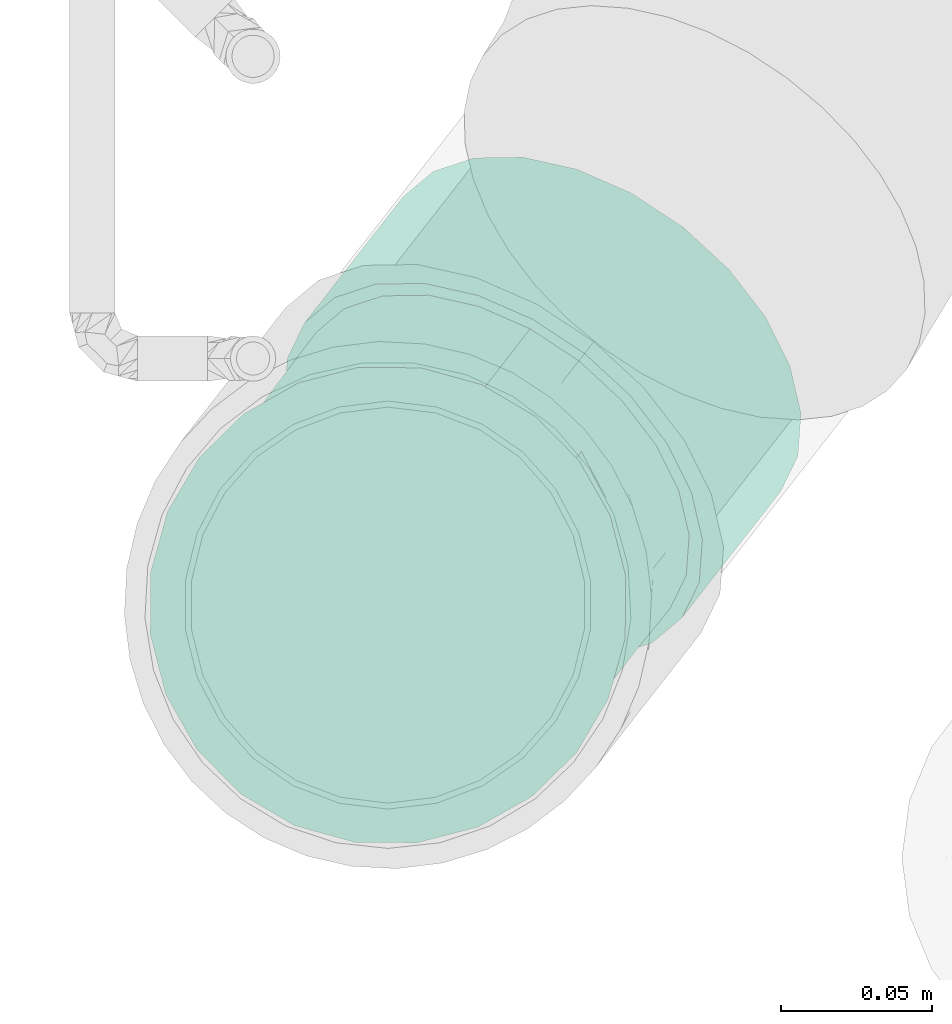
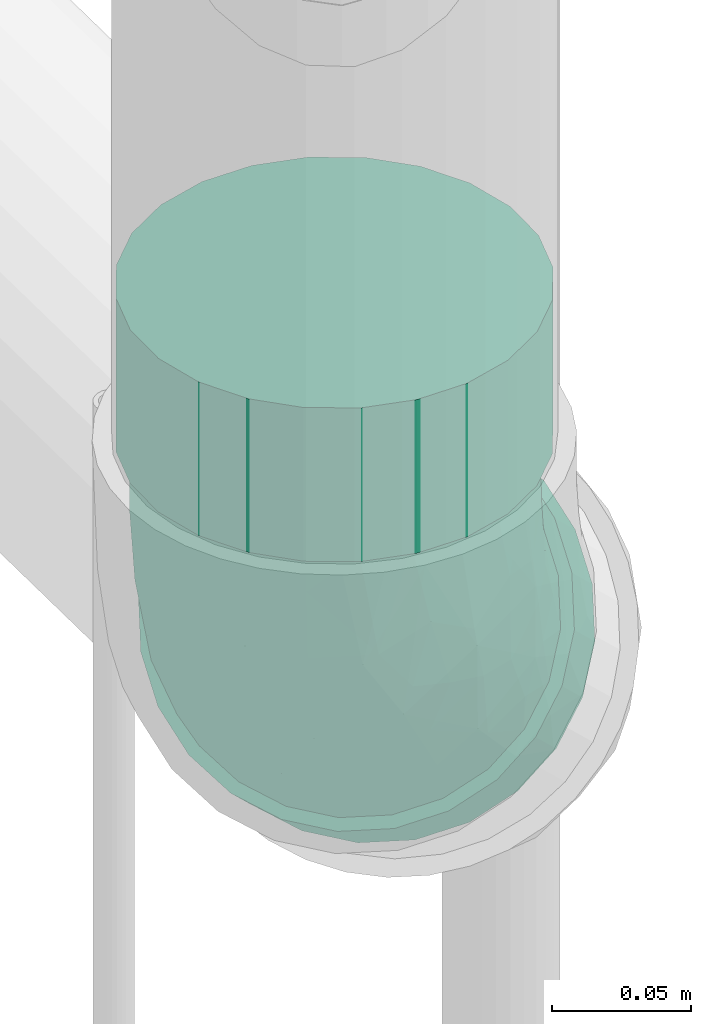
# One storey, part 134 of 156: 1 flow fitting.
"""IFC2X3 building model written with IfcOpenShell, lengths in millimetres."""

from ifc_helpers import new_model, entity, si_unit, converted_unit, derived_unit, direction, frame, origin_with_axes, place, context, subcontext, project, spatial, open_shell, surface_model, source, transform, mapped, type_object, element, save


model = new_model("IFC2X3")

# Units and contexts
model_context = context("Model", 3, precision=0.01, world=frame((0.0, 4.29681676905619e-09, 0.0)), true_north=direction((4.01073788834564e-13, 1.0)))
plan_context = context("Plan", 3, precision=0.01, world=frame((0.0, 4.29681676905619e-09, 0.0)), true_north=direction((4.01073788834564e-13, 1.0)))
body_context = subcontext(model_context, "Body", "Model", "MODEL_VIEW")
ifc_project = project(units=[converted_unit("PLANEANGLEUNIT", "DEGREE", entity("IfcPositiveLengthMeasure", 0.0174532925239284), si_unit("PLANEANGLEUNIT", "RADIAN"), dimensions=[0, 0, 0, 0, 0, 0, 0]), si_unit("AREAUNIT", "SQUARE_METRE"), si_unit("LENGTHUNIT", "METRE", prefix="MILLI"), si_unit("MASSUNIT", "GRAM", prefix="KILO"), si_unit("POWERUNIT", "WATT"), si_unit("PRESSUREUNIT", "PASCAL", prefix="KILO"), si_unit("FORCEUNIT", "NEWTON", prefix="KILO"), si_unit("ELECTRICVOLTAGEUNIT", "VOLT"), si_unit("ELECTRICCURRENTUNIT", "AMPERE"), si_unit("THERMODYNAMICTEMPERATUREUNIT", "DEGREE_CELSIUS"), si_unit("TIMEUNIT", "SECOND"), si_unit("VOLUMEUNIT", "CUBIC_METRE"), derived_unit("LINEARVELOCITYUNIT", [(si_unit("LENGTHUNIT", "METRE"), 1), (si_unit("TIMEUNIT", "SECOND"), -1)]), derived_unit("VOLUMETRICFLOWRATEUNIT", [(si_unit("VOLUMEUNIT", "CUBIC_METRE"), 1), (si_unit("TIMEUNIT", "SECOND"), -1)]), derived_unit("THERMALTRANSMITTANCEUNIT", [(si_unit("POWERUNIT", "WATT"), 1), (si_unit("THERMODYNAMICTEMPERATUREUNIT", "KELVIN"), -1), (si_unit("AREAUNIT", "SQUARE_METRE"), -1)]), derived_unit("SOUNDPRESSUREUNIT", [(si_unit("PRESSUREUNIT", "PASCAL"), 1)])], contexts=[model_context, plan_context])

# Site, building, storey
site_placement = place(None, frame((0.0, -4.29681676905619e-09, 0.0), z_axis=(0.0, 0.0, 1.0), x_axis=(1.0, 0.0, 0.0)))
site = spatial("IfcSite", under=ifc_project, at=site_placement, CompositionType="ELEMENT")
building_placement = place(site_placement, frame((0.0, 4.29681676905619e-09, 0.0), z_axis=(0.0, 0.0, 1.0), x_axis=(1.0, 0.0, 0.0)))
building = spatial("IfcBuilding", under=site, at=building_placement, Name="mc-building", CompositionType="ELEMENT")
storey_placement = place(building_placement, frame((0.0, 0.0, 205200.0), z_axis=(0.0, 0.0, 1.0), x_axis=(1.0, 0.0, 0.0)))
storey = spatial("IfcBuildingStorey", under=building, at=storey_placement, Name="Nivå D + 1,2 m", CompositionType="ELEMENT", Elevation=205200.0)

# Flow fitting
pipe_fitting_type = type_object("IfcPipeFittingType", Name="magi_sewer_bend_001", PredefinedType="BEND")
shared_shape = source(origin_with_axes(), body_context, "Body", "SurfaceModel", [
    surface_model("IfcShellBasedSurfaceModel", [(-139.55149, -39.625, -68.63251), (-139.55149, 20.51141, -76.54962), (-139.55149, -20.51141, -76.54962), (-139.55149, -56.03821, -56.03821), (-139.55149, 68.63251, -39.625), (-139.55149, -68.63251, -39.625), (-139.55149, -76.54962, -20.51141), (-139.55149, -79.25, 0.0), (-139.55149, -76.54962, 20.51141), (-139.55149, 76.54962, -20.51141), (-139.55149, 39.625, -68.63251), (-139.55149, 0.0, -79.25), (-139.55149, 56.03821, -56.03821), (-139.55149, -68.63251, 39.625), (-139.55149, -56.03821, 56.03821), (-139.55149, -39.625, 68.63251), (-139.55149, -20.51141, 76.54962), (-139.55149, 0.0, 79.25), (-139.55149, 76.54962, 20.51141), (-139.55149, 20.51141, 76.54962), (-139.55149, 56.03821, 56.03821), (-139.55149, 68.63251, 39.625), (-139.55149, 79.25, 0.0), (-139.55149, 39.625, 68.63251), (-72.05149, 0.0, 79.25), (-72.05149, -20.51141, 76.54962), (-72.05149, -39.625, 68.63251), (-72.05149, 20.51141, 76.54962), (-72.05149, -56.03821, 56.03821), (-72.05149, -68.63251, 39.625), (-72.05149, -76.54962, 20.51141), (-72.05149, 56.03821, 56.03821), (-72.05149, 39.625, 68.63251), (-72.05149, 76.54962, 20.51141), (-72.05149, 68.63251, 39.625), (-72.05149, 76.54962, -20.51141), (-72.05149, 79.25, 0.0), (-72.05149, -79.25, 0.0), (-72.05149, -76.54962, -20.51141), (-72.05149, -68.63251, -39.625), (-72.05149, -56.03821, -56.03821), (-72.05149, -39.625, -68.63251), (-72.05149, -20.51141, -76.54962), (-72.05149, 20.51141, -76.54962), (-72.05149, 68.63251, -39.625), (-72.05149, 39.625, -68.63251), (-72.05149, 56.03821, -56.03821), (-72.05149, 0.0, -79.25), (26.23899, 156.99038, 20.51141), (32.45771, 152.09056, 39.625), (42.35025, 144.29608, 56.03821), (55.24246, 134.13811, 68.63251), (70.25576, 122.3089, 76.54962), (86.36701, 109.61459, 79.25), (102.47827, 96.92028, 76.54962), (70.25576, 122.3089, -76.54962), (102.47827, 96.92028, -76.54962), (26.23899, 156.99038, -20.51141), (32.45771, 152.09056, -39.625), (24.11791, 158.66161, 0.0), (42.35025, 144.29608, -56.03821), (55.24246, 134.13811, -68.63251), (117.49157, 85.09107, 68.63251), (140.27633, 67.13862, 39.625), (130.38378, 74.9331, 56.03821), (146.49504, 62.2388, 20.51141), (148.61613, 60.56756, 0.0), (146.49504, 62.2388, -20.51141), (130.38378, 74.9331, -56.03821), (117.49157, 85.09107, -68.63251), (86.36701, 109.61459, -79.25), (140.27633, 67.13862, -39.625), (106.84105, 7.54782, 0.0), (104.71997, 9.21905, 20.51141), (98.50126, 14.11887, 39.625), (104.71997, 9.21905, -20.51141), (75.7165, 32.07133, 68.63251), (60.7032, 43.90054, 76.54962), (88.60871, 21.91336, 56.03821), (28.48069, 69.28915, -76.54962), (60.7032, 43.90054, -76.54962), (98.50126, 14.11887, -39.625), (88.60871, 21.91336, -56.03821), (75.7165, 32.07133, -68.63251), (44.59195, 56.59484, -79.25), (13.46739, 81.11836, 68.63251), (44.59195, 56.59484, 79.25), (28.48069, 69.28915, 76.54962), (0.57518, 91.27633, 56.03821), (-9.31736, 99.07082, 39.625), (-15.53608, 103.97063, 20.51141), (0.57518, 91.27633, -56.03821), (13.46739, 81.11836, -68.63251), (-15.53608, 103.97063, -20.51141), (-9.31736, 99.07082, -39.625), (-17.65716, 105.64187, 0.0), (-72.05149, 0.0, -74.25), (-72.05149, -52.50268, -52.50268), (-72.05149, 19.21731, -71.71999), (-72.05149, 37.125, -64.30238), (-72.05149, 52.50268, -52.50268), (-72.05149, 71.71999, -19.21731), (-72.05149, 64.30238, -37.125), (-72.05149, -64.30238, -37.125), (-72.05149, -37.125, -64.30238), (-72.05149, -19.21731, -71.71999), (-72.05149, -71.71999, -19.21731), (-72.05149, -74.25, 0.0), (-72.05149, -71.71999, 19.21731), (-72.05149, 71.71999, 19.21731), (-72.05149, 19.21731, 71.71999), (-72.05149, 64.30238, 37.125), (-72.05149, 52.50268, 52.50268), (-72.05149, 37.125, 64.30238), (-72.05149, 0.0, 74.25), (-72.05149, -64.30238, 37.125), (-72.05149, -52.50268, 52.50268), (-72.05149, -37.125, 64.30238), (-72.05149, -19.21731, 71.71999), (-72.05149, 74.25, 0.0), (29.49717, 68.48825, -71.71999), (85.83163, 24.10147, -52.50268), (44.59195, 56.59484, -74.25), (-11.74251, 100.98163, -19.21731), (15.43108, 79.57113, -64.30238), (3.35226, 89.08822, -52.50268), (-5.91615, 96.39095, -37.125), (59.68672, 44.70144, -71.71999), (73.75281, 33.61856, -64.30238), (95.10004, 16.79874, -37.125), (102.91367, 10.64227, 0.0), (100.9264, 12.20806, -19.21731), (29.49717, 68.48825, 71.71999), (-11.74251, 100.98163, 19.21731), (15.43108, 79.57113, 64.30238), (-5.91615, 96.39095, 37.125), (3.35226, 89.08822, 52.50268), (44.59195, 56.59484, 74.25), (100.9264, 12.20806, 19.21731), (85.83163, 24.10147, 52.50268), (95.10004, 16.79874, 37.125), (73.75281, 33.61856, 64.30238), (59.68672, 44.70144, 71.71999), (-13.72977, 102.54742, 0.0), (-20.64629, -54.63387, 42.27902), (-34.55956, -66.3296, 25.92604), (-53.64642, -72.16257, 0.0), (-22.16633, -68.59222, 0.0), (-40.29449, -70.93802, 12.30046), (-50.88597, 70.28789, 30.98772), (30.39671, 24.74978, 73.24848), (-35.00635, -43.69111, 57.29313), (-26.32384, -25.49588, 67.2817), (14.58858, -30.06745, 54.91296), (6.3656, 55.08531, 69.34677), (-0.68646, 1.4148, 72.72236), (-38.25262, -8.55855, 73.24848), (-33.95922, 11.97555, 73.94154), (-29.98524, 87.31592, 0.0), (-38.54137, 79.43477, 19.16292), (-12.99366, 79.86876, 46.412), (-31.94083, 65.83088, 48.04086), (-54.69349, 59.63621, 46.412), (-40.96148, 47.73009, 60.50088), (-7.85515, -63.29655, 14.54275), (-17.79055, 36.66679, 70.1962), (-47.20789, 29.09171, 69.34677), (73.48898, -13.90496, 25.92604), (-50.02714, 77.59168, 0.0), (55.98347, 0.45672, 57.29313), (-27.43049, 78.84511, 34.44191), (15.69352, -51.59723, 24.78702), (20.27136, -40.66035, 40.87256), (36.318, 4.89764, 67.2817), (78.81195, -13.94597, 12.47481), (56.8471, -31.43173, 14.41407), (-10.77001, 62.82812, 60.41269), (55.69147, -17.59515, 42.27902), (11.61049, 34.08576, 73.94154), (45.35172, -33.94077, 28.76444), (25.18469, -51.9063, 0.0), (67.59618, -25.03988, 0.0), (85.25493, -7.1988, 0.0), (6.35854, -13.10512, 67.41242), (-11.88071, 24.48644, 73.4808), (46.39044, -38.47309, 0.0), (1.50918, -60.24926, 0.0), (66.0139, -8.37503, -43.07513), (24.2423, 19.14793, -73.14555), (-40.80399, 62.66673, -47.39487), (-37.72622, 30.70005, -69.62308), (-36.09792, -27.11992, -67.57763), (5.12859, -16.34343, -66.2547), (-24.12905, -41.88452, -56.79786), (-38.54137, 79.43477, -19.16292), (-32.91242, 75.39303, -34.82722), (43.64273, 11.56987, -67.57763), (-25.51656, 52.59028, -61.30003), (-51.24733, 45.8593, -59.97552), (-0.76583, 48.63306, -69.62308), (-42.78682, 10.51785, -73.87544), (-23.26392, -64.33936, -25.1541), (12.96848, -44.52402, -40.21165), (-34.70759, -57.09636, -43.09998), (89.88332, -2.52262, 0.0), (45.9868, -8.53783, -56.68808), (18.3732, -23.64616, -58.3235), (-30.04358, -7.19132, -73.14555), (64.93494, -21.54569, -25.1541), (21.45133, -50.32871, -21.00422), (-2.60861, 5.37641, -73.49225), (43.50166, -30.91073, -36.06511), (-16.83649, 76.37551, -46.7716), (-9.37213, 69.20085, -57.13453), (18.21879, 40.11748, -73.87544), (-9.31272, 19.19375, -74.09616), (32.30055, -27.8139, -48.31484)], [open_shell([[[0, 1, 2]], [[3, 4, 0]], [[5, 6, 7]], [[3, 5, 8]], [[3, 8, 9]], [[1, 4, 10]], [[1, 11, 2]], [[10, 4, 12]], [[0, 4, 1]], [[3, 9, 4]], [[8, 5, 7]], [[8, 13, 14]], [[8, 14, 15]], [[15, 16, 17]], [[15, 18, 9]], [[19, 15, 17]], [[18, 20, 21]], [[22, 9, 18]], [[20, 19, 23]], [[19, 20, 18]], [[15, 19, 18]], [[9, 8, 15]], [[24, 25, 26]], [[27, 24, 26]], [[28, 29, 30]], [[28, 30, 26]], [[27, 26, 30]], [[27, 31, 32]], [[31, 27, 33]], [[31, 33, 34]], [[27, 30, 33]], [[33, 35, 36]], [[33, 30, 35]], [[37, 38, 39]], [[37, 39, 40]], [[40, 41, 42]], [[40, 42, 37]], [[37, 42, 43]], [[44, 45, 46]], [[43, 44, 35]], [[44, 43, 45]], [[35, 37, 43]], [[42, 47, 43]], [[37, 35, 30]], [[9, 36, 35]], [[10, 45, 43]], [[45, 12, 46]], [[1, 43, 47]], [[35, 4, 9]], [[9, 22, 36]], [[44, 12, 4]], [[44, 46, 12]], [[12, 45, 10]], [[43, 1, 10]], [[44, 4, 35]], [[47, 11, 1]], [[2, 42, 41]], [[40, 0, 41]], [[5, 39, 38]], [[40, 39, 3]], [[6, 38, 37]], [[42, 2, 11]], [[41, 0, 2]], [[40, 3, 0]], [[39, 5, 3]], [[6, 5, 38]], [[37, 7, 6]], [[42, 11, 47]], [[30, 8, 37]], [[29, 13, 30]], [[29, 28, 14]], [[28, 26, 15]], [[30, 13, 8]], [[8, 7, 37]], [[25, 16, 15]], [[16, 25, 24]], [[14, 28, 15]], [[14, 13, 29]], [[26, 25, 15]], [[24, 17, 16]], [[19, 27, 32]], [[31, 23, 32]], [[21, 34, 33]], [[31, 34, 20]], [[18, 33, 36]], [[27, 19, 17]], [[32, 23, 19]], [[31, 20, 23]], [[34, 21, 20]], [[18, 21, 33]], [[36, 22, 18]], [[27, 17, 24]], [[48, 49, 50]], [[48, 50, 51]], [[51, 52, 53]], [[48, 51, 54]], [[55, 48, 56]], [[57, 55, 58]], [[57, 59, 48]], [[60, 55, 61]], [[55, 60, 58]], [[48, 55, 57]], [[54, 51, 53]], [[56, 48, 62]], [[63, 62, 64]], [[63, 65, 66]], [[67, 62, 63]], [[67, 63, 66]], [[56, 68, 69]], [[70, 55, 56]], [[68, 67, 71]], [[67, 68, 56]], [[62, 67, 56]], [[48, 54, 62]], [[72, 73, 74]], [[75, 72, 74]], [[76, 77, 74]], [[76, 74, 78]], [[79, 80, 74]], [[74, 81, 75]], [[74, 82, 81]], [[82, 80, 83]], [[74, 80, 82]], [[80, 79, 84]], [[85, 74, 77]], [[86, 87, 85]], [[74, 85, 79]], [[88, 89, 90]], [[88, 90, 85]], [[79, 85, 90]], [[79, 91, 92]], [[91, 79, 93]], [[91, 93, 94]], [[79, 90, 93]], [[90, 95, 93]], [[85, 77, 86]], [[55, 84, 79]], [[58, 94, 93]], [[94, 60, 91]], [[57, 93, 95]], [[79, 61, 55]], [[55, 70, 84]], [[92, 60, 61]], [[92, 91, 60]], [[60, 94, 58]], [[93, 57, 58]], [[92, 61, 79]], [[95, 59, 57]], [[48, 90, 89]], [[88, 49, 89]], [[51, 85, 87]], [[88, 85, 50]], [[52, 87, 86]], [[90, 48, 59]], [[89, 49, 48]], [[88, 50, 49]], [[85, 51, 50]], [[52, 51, 87]], [[86, 53, 52]], [[90, 59, 95]], [[77, 54, 86]], [[76, 62, 77]], [[76, 78, 64]], [[78, 74, 63]], [[77, 62, 54]], [[54, 53, 86]], [[73, 65, 63]], [[65, 73, 72]], [[64, 78, 63]], [[64, 62, 76]], [[74, 73, 63]], [[72, 66, 65]], [[67, 75, 81]], [[82, 71, 81]], [[69, 83, 80]], [[82, 83, 68]], [[56, 80, 84]], [[75, 67, 66]], [[81, 71, 67]], [[82, 68, 71]], [[83, 69, 68]], [[56, 69, 80]], [[84, 70, 56]], [[75, 66, 72]], [[96, 97, 98]], [[99, 98, 100]], [[101, 102, 100]], [[100, 98, 97]], [[101, 100, 103]], [[104, 97, 105]], [[97, 96, 105]], [[97, 103, 100]], [[101, 103, 106]], [[107, 108, 106]], [[109, 101, 106]], [[110, 109, 106]], [[111, 109, 112]], [[109, 110, 113]], [[112, 109, 113]], [[106, 114, 110]], [[115, 116, 108]], [[117, 108, 116]], [[118, 114, 117]], [[106, 108, 117]], [[106, 117, 114]], [[119, 101, 109]], [[120, 121, 122]], [[123, 120, 124]], [[125, 126, 123]], [[125, 123, 124]], [[121, 120, 123]], [[127, 121, 128]], [[127, 122, 121]], [[129, 130, 131]], [[129, 121, 123]], [[132, 130, 129]], [[129, 123, 133]], [[133, 132, 129]], [[134, 133, 135]], [[134, 132, 133]], [[134, 135, 136]], [[130, 132, 137]], [[138, 139, 140]], [[139, 138, 141]], [[141, 137, 142]], [[138, 130, 141]], [[137, 141, 130]], [[123, 143, 133]], [[144, 115, 145]], [[146, 147, 148]], [[149, 109, 111]], [[142, 137, 150]], [[117, 151, 152]], [[152, 151, 153]], [[132, 134, 154]], [[155, 156, 152]], [[156, 114, 118]], [[110, 114, 157]], [[118, 117, 152]], [[133, 158, 159]], [[136, 135, 160]], [[161, 162, 163]], [[145, 148, 164]], [[162, 111, 112]], [[165, 166, 157]], [[145, 115, 108]], [[140, 167, 138]], [[109, 159, 168]], [[139, 141, 169]], [[168, 119, 109]], [[149, 161, 170]], [[117, 116, 151]], [[110, 166, 113]], [[144, 171, 172]], [[145, 171, 144]], [[112, 113, 163]], [[173, 142, 150]], [[174, 167, 175]], [[165, 154, 176]], [[173, 141, 142]], [[140, 139, 177]], [[132, 154, 178]], [[171, 179, 172]], [[177, 167, 140]], [[164, 180, 171]], [[173, 169, 141]], [[181, 174, 175]], [[174, 182, 138]], [[179, 167, 177]], [[108, 146, 148]], [[169, 153, 177]], [[158, 168, 159]], [[116, 115, 144]], [[143, 158, 133]], [[152, 183, 155]], [[133, 159, 170]], [[150, 178, 155]], [[136, 176, 134]], [[184, 155, 178]], [[170, 161, 160]], [[157, 184, 165]], [[161, 163, 176]], [[132, 178, 137]], [[156, 157, 114]], [[166, 163, 113]], [[167, 179, 175]], [[116, 144, 151]], [[183, 153, 173]], [[153, 151, 144]], [[153, 169, 173]], [[177, 139, 169]], [[176, 136, 160]], [[165, 176, 163]], [[152, 156, 118]], [[157, 156, 155]], [[178, 150, 137]], [[173, 150, 155]], [[157, 166, 110]], [[163, 166, 165]], [[176, 154, 134]], [[178, 154, 165]], [[172, 177, 153]], [[108, 107, 146]], [[177, 172, 179]], [[144, 172, 153]], [[171, 175, 179]], [[175, 180, 185]], [[182, 130, 138]], [[138, 167, 174]], [[174, 181, 182]], [[180, 175, 171]], [[185, 181, 175]], [[164, 148, 147]], [[108, 148, 145]], [[164, 147, 186]], [[145, 164, 171]], [[133, 170, 135]], [[149, 170, 159]], [[109, 149, 159]], [[149, 111, 162]], [[163, 162, 112]], [[149, 162, 161]], [[170, 160, 135]], [[176, 160, 161]], [[153, 183, 152]], [[173, 155, 183]], [[155, 184, 157]], [[178, 165, 184]], [[180, 164, 186]], [[129, 187, 121]], [[122, 127, 188]], [[102, 189, 100]], [[99, 190, 98]], [[119, 168, 101]], [[191, 192, 193]], [[101, 194, 195]], [[127, 196, 188]], [[189, 197, 198]], [[123, 126, 195]], [[124, 120, 199]], [[200, 96, 98]], [[103, 201, 106]], [[102, 101, 195]], [[201, 146, 106]], [[202, 203, 193]], [[131, 130, 204]], [[205, 121, 187]], [[97, 104, 193]], [[192, 196, 206]], [[97, 203, 103]], [[105, 191, 104]], [[105, 96, 207]], [[208, 185, 209]], [[127, 128, 196]], [[210, 192, 207]], [[194, 168, 158]], [[211, 187, 208]], [[158, 143, 123]], [[203, 202, 201]], [[212, 195, 126]], [[198, 190, 99]], [[199, 213, 124]], [[212, 213, 189]], [[199, 197, 213]], [[207, 191, 105]], [[214, 120, 122]], [[158, 123, 194]], [[96, 200, 207]], [[198, 99, 100]], [[187, 129, 208]], [[214, 188, 215]], [[188, 196, 192]], [[201, 202, 209]], [[203, 97, 193]], [[202, 211, 209]], [[186, 201, 209]], [[205, 128, 121]], [[208, 131, 204]], [[188, 210, 215]], [[208, 204, 181]], [[214, 199, 120]], [[215, 200, 190]], [[131, 208, 129]], [[206, 205, 216]], [[216, 187, 211]], [[197, 199, 190]], [[101, 168, 194]], [[215, 190, 199]], [[125, 212, 126]], [[201, 103, 203]], [[128, 205, 196]], [[196, 205, 206]], [[192, 191, 207]], [[193, 104, 191]], [[190, 200, 98]], [[207, 200, 215]], [[188, 214, 122]], [[199, 214, 215]], [[213, 212, 125]], [[195, 212, 189]], [[102, 195, 189]], [[195, 194, 123]], [[124, 213, 125]], [[189, 213, 197]], [[180, 209, 185]], [[216, 211, 202]], [[208, 209, 211]], [[147, 201, 186]], [[206, 202, 193]], [[187, 216, 205]], [[202, 206, 216]], [[193, 192, 206]], [[146, 201, 147]], [[181, 185, 208]], [[146, 107, 106]], [[189, 198, 100]], [[190, 198, 197]], [[192, 210, 188]], [[207, 215, 210]], [[209, 180, 186]]])]),
])
flow_fitting_placement = place(storey_placement, frame((324173.14379, 462808.42883, 7714.70295000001), z_axis=(-0.787915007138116, 0.615784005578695, 0.0), x_axis=(-0.483684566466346, -0.618889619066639, 0.618890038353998)))
element("IfcFlowFitting", 1, at=flow_fitting_placement, inside=storey, type_object=pipe_fitting_type, Name="magi_sewer_bend_001", context=body_context, shape_type="MappedRepresentation", body=[
    mapped(shared_shape, transform((0.0, 0.0, 0.0), scale=1.0)),
])

save(model, "model.ifc")
